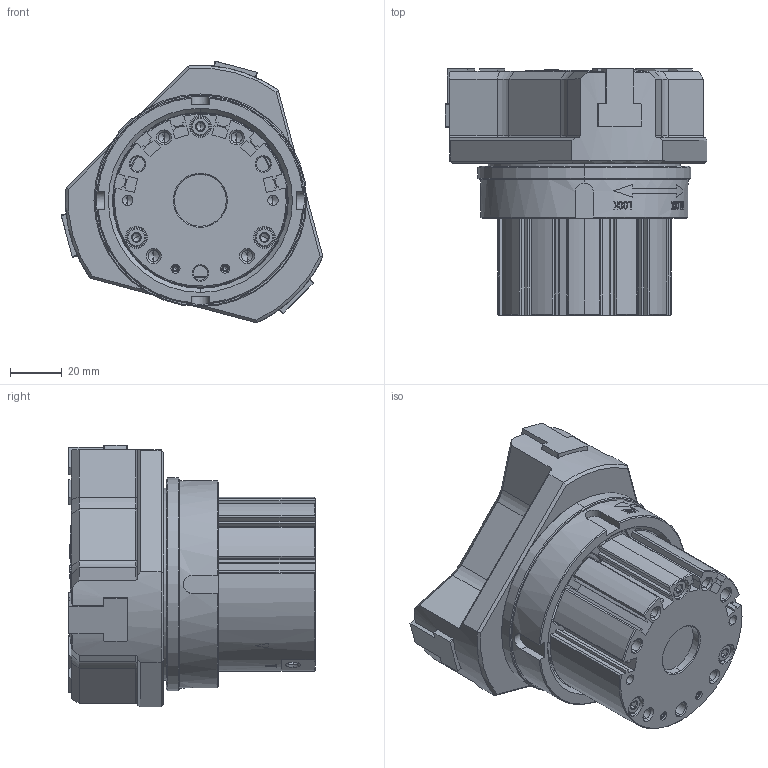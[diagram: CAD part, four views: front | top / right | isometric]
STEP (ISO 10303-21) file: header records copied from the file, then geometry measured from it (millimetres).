
FILE_DESCRIPTION (( 'STEP AP214' ), '1' );
FILE_NAME ('HP-QGBL06+QGL30610-Assy-20241125-UC.STEP', '2024-11-25T06:30:03', ( '' ), ( '' ), 'SwSTEP 2.0', 'SolidWorks 2022', '' );
FILE_SCHEMA (( 'AUTOMOTIVE_DESIGN' ));
Length unit declared in the file: millimetre
Products named in the file (11): QGL30610^HP-QGBL06+QGL30610_開端; S-TOME^QGBL06_HP-QGBL06+QGL30610; HP-QGBL06+QGL30610-Assy-20241125-UC; LOCK NUT^QGBL06_HP-QGBL06+QGL30610; MASTER JAW^QGL30610_HP-QGBL06+QGL30610; REAR BODY^QGBL06_HP-QGBL06+QGL30610; BODY^QGL30610_HP-QGBL06+QGL30610; S-SARA^QGL30610_HP-QGBL06+QGL30610; BOLT1^QGBL06_HP-QGBL06+QGL30610; QGBL06^HP-QGBL06+QGL30610_閉端; COVER^QGL30610_HP-QGBL06+QGL30610
Assembly tree (17 placements, depth 3):
  HP-QGBL06+QGL30610-Assy-20241125-UC
    QGBL06^HP-QGBL06+QGL30610_閉端
      REAR BODY^QGBL06_HP-QGBL06+QGL30610
      LOCK NUT^QGBL06_HP-QGBL06+QGL30610
      BOLT1^QGBL06_HP-QGBL06+QGL30610  x3
      S-TOME^QGBL06_HP-QGBL06+QGL30610  x2
    QGL30610^HP-QGBL06+QGL30610_開端
      BODY^QGL30610_HP-QGBL06+QGL30610
      MASTER JAW^QGL30610_HP-QGBL06+QGL30610  x3
      COVER^QGL30610_HP-QGBL06+QGL30610
      S-SARA^QGL30610_HP-QGBL06+QGL30610  x3
Bounding box: 100.91 x 95 x 100.91 mm (x, y, z)
Volume: 287957.6 mm3; surface area: 89990.6 mm2
Topology: 15 solids, 15 shells, 3044 faces, 8470 edges, 5553 vertices
Faces by surface type: plane 1434, bspline 1136, cylinder 256, cone 202, torus 16
Entity records: 126045 total; most frequent: CARTESIAN_POINT 61932, ORIENTED_EDGE 15876, DIRECTION 8536, EDGE_CURVE 7938, VERTEX_POINT 5245, LINE 3852, VECTOR 3852, B_SPLINE_CURVE_WITH_KNOTS 3447
